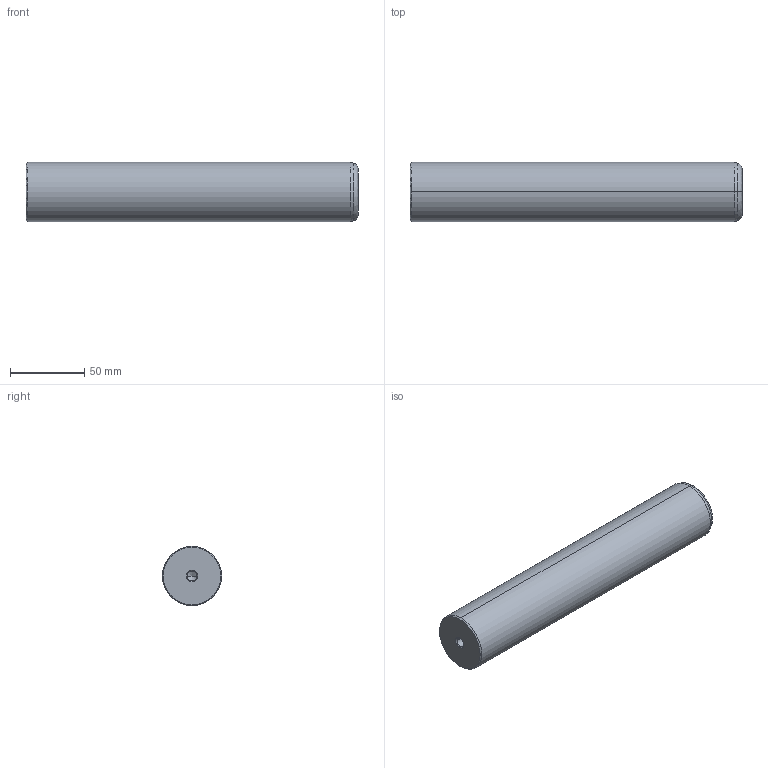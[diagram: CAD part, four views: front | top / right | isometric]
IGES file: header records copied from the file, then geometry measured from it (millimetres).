
Start section: START RECORD GO HERE.
Global section: file name: 720-40x224.igs; native system: DASSAULT SYSTEMES CATIA V5 R20 - www.3ds.com; preprocessor: CATIA Version 5 Release 20 ; author: Utente; organization: NB04-ASUS; date: 20201230.225927; units: millimetre
Bounding box: 224 x 40 x 40 mm (x, y, z)
Surface area: 31332.8 mm2 (no closed solid volume)
Topology: 0 solids, 0 shells, 22 faces, 108 edges, 104 vertices
Faces by surface type: revolution 20, plane 2
